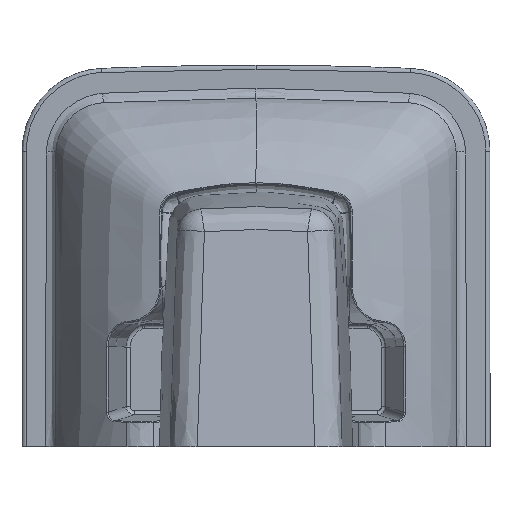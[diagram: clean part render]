
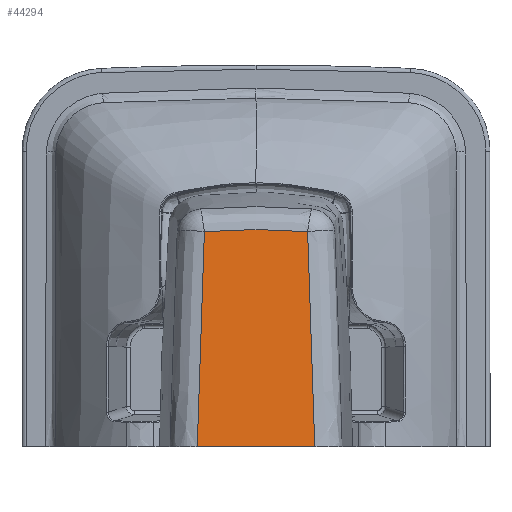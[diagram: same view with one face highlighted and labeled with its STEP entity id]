
A CAD part, front view. The second image highlights one B-rep face of the part: STEP entity #44294.
In plain terms, the highlighted planar face has unit normal (0, -0.995, 0.097).
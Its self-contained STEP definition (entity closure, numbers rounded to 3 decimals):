
#924 = VERTEX_POINT ( 'NONE', #63787 ) ;
#4585 = CARTESIAN_POINT ( 'NONE',  ( 56.202, -386.825, -145.496 ) ) ;
#4694 = ORIENTED_EDGE ( 'NONE', *, *, #5722, .F. ) ;
#5722 = EDGE_CURVE ( 'NONE', #924, #39072, #43797, .T. ) ;
#6096 = CARTESIAN_POINT ( 'NONE',  ( -49.626, -370.017, 26.912 ) ) ;
#6955 = CARTESIAN_POINT ( 'NONE',  ( -56.494, -390.189, -180. ) ) ;
#8443 = CARTESIAN_POINT ( 'NONE',  ( 40.726, -369.95, 27.59 ) ) ;
#9157 = CARTESIAN_POINT ( 'NONE',  ( 49.626, -370.017, 26.912 ) ) ;
#9178 = CARTESIAN_POINT ( 'NONE',  ( -49.626, -370.017, 26.912 ) ) ;
#9524 = CARTESIAN_POINT ( 'NONE',  ( 49.626, -370.017, 26.912 ) ) ;
#9868 = CARTESIAN_POINT ( 'NONE',  ( 51.913, -374.217, -16.167 ) ) ;
#11733 = CARTESIAN_POINT ( 'NONE',  ( 30.023, -369.888, 28.234 ) ) ;
#12697 = EDGE_LOOP ( 'NONE', ( #4694, #37767, #22984, #68208 ) ) ;
#12943 = CARTESIAN_POINT ( 'NONE',  ( 56.493, -390.189, -180. ) ) ;
#13375 = CARTESIAN_POINT ( 'NONE',  ( 42.866, -369.965, 27.44 ) ) ;
#13954 = LINE ( 'NONE', #23806, #15618 ) ;
#15330 = B_SPLINE_CURVE_WITH_KNOTS ( 'NONE', 3,
 ( #9524, #42530, #30956, #52388, #9868, #53754, #52729, #57652, #4585, #26043 ),
 .UNSPECIFIED., .F., .F.,
 ( 4, 2, 2, 2, 4 ),
 ( 0., 0.125, 0.25, 0.5, 1. ),
 .UNSPECIFIED. ) ;
#15582 = EDGE_CURVE ( 'NONE', #39072, #68654, #15330, .T. ) ;
#15618 = VECTOR ( 'NONE', #19588, 1000. ) ;
#17019 = CARTESIAN_POINT ( 'NONE',  ( -30.023, -369.888, 28.234 ) ) ;
#18312 = CARTESIAN_POINT ( 'NONE',  ( 8.581, -369.816, 28.97 ) ) ;
#18656 = CARTESIAN_POINT ( 'NONE',  ( -48.683, -370.009, 26.99 ) ) ;
#19009 = CARTESIAN_POINT ( 'NONE',  ( -8.58, -369.816, 28.97 ) ) ;
#19588 = DIRECTION ( 'NONE',  ( -1., 0., 0. ) ) ;
#19767 = B_SPLINE_CURVE_WITH_KNOTS ( 'NONE', 3,
 ( #9178, #25702, #26048, #52733 ),
 .UNSPECIFIED., .F., .F.,
 ( 4, 4 ),
 ( 0., 1. ),
 .UNSPECIFIED. ) ;
#22984 = ORIENTED_EDGE ( 'NONE', *, *, #35158, .F. ) ;
#23806 = CARTESIAN_POINT ( 'NONE',  ( -4883.174, -390.189, -180. ) ) ;
#25135 = DIRECTION ( 'NONE',  ( 0., 0.097, 0.995 ) ) ;
#25702 = CARTESIAN_POINT ( 'NONE',  ( -53.62, -376.719, -41.833 ) ) ;
#26043 = CARTESIAN_POINT ( 'NONE',  ( 56.493, -390.189, -180. ) ) ;
#26048 = CARTESIAN_POINT ( 'NONE',  ( -55.909, -383.443, -110.803 ) ) ;
#27559 = CARTESIAN_POINT ( 'NONE',  ( 17.165, -369.834, 28.786 ) ) ;
#28819 = VERTEX_POINT ( 'NONE', #6955 ) ;
#30956 = CARTESIAN_POINT ( 'NONE',  ( 50.6, -371.696, 9.683 ) ) ;
#35158 = EDGE_CURVE ( 'NONE', #68654, #28819, #13954, .T. ) ;
#35710 = AXIS2_PLACEMENT_3D ( 'NONE', #42918, #51827, #25135 ) ;
#37767 = ORIENTED_EDGE ( 'NONE', *, *, #66326, .T. ) ;
#39072 = VERTEX_POINT ( 'NONE', #9157 ) ;
#39742 = CARTESIAN_POINT ( 'NONE',  ( -47.143, -369.997, 27.115 ) ) ;
#40081 = CARTESIAN_POINT ( 'NONE',  ( -17.165, -369.834, 28.786 ) ) ;
#40785 = CARTESIAN_POINT ( 'NONE',  ( -34.306, -369.91, 28.005 ) ) ;
#42530 = CARTESIAN_POINT ( 'NONE',  ( 50.124, -370.856, 18.298 ) ) ;
#42918 = CARTESIAN_POINT ( 'NONE',  ( -4883.174, -393.503, -213.992 ) ) ;
#43797 =( BOUNDED_CURVE ( )  B_SPLINE_CURVE ( 3, ( #6096, #54243, #18656, #39742, #51312, #50967, #49339, #40785, #17019, #40081, #19009, #18312, #27559, #11733, #61143, #8443, #13375, #45354, #54593, #65122, #56222, #66761 ),
 .UNSPECIFIED., .F., .T. ) 
 B_SPLINE_CURVE_WITH_KNOTS ( ( 4, 2, 2, 2, 2, 2, 2, 2, 2, 2, 4 ),
 ( 0., 0.014, 0.047, 0.111, 0.241, 0.5, 0.759, 0.889, 0.953, 0.986, 1. ),
 .UNSPECIFIED. ) 
 CURVE ( )  GEOMETRIC_REPRESENTATION_ITEM ( )  RATIONAL_B_SPLINE_CURVE ( ( 1., 1., 1., 1., 1., 1., 1., 1., 1., 1., 1., 1., 1., 1., 1., 1., 1., 1., 1., 1., 1., 1. ) ) 
 REPRESENTATION_ITEM ( '' )  );
#44294 = ADVANCED_FACE ( 'NONE', ( #58718 ), #67975, .F. ) ;
#45354 = CARTESIAN_POINT ( 'NONE',  ( 46.073, -369.989, 27.198 ) ) ;
#49339 = CARTESIAN_POINT ( 'NONE',  ( -40.726, -369.95, 27.59 ) ) ;
#50967 = CARTESIAN_POINT ( 'NONE',  ( -42.866, -369.965, 27.44 ) ) ;
#51312 = CARTESIAN_POINT ( 'NONE',  ( -46.073, -369.989, 27.198 ) ) ;
#51827 = DIRECTION ( 'NONE',  ( 0., 0.995, -0.097 ) ) ;
#52388 = CARTESIAN_POINT ( 'NONE',  ( 51.493, -373.376, -7.55 ) ) ;
#52729 = CARTESIAN_POINT ( 'NONE',  ( 53.77, -378.418, -59.263 ) ) ;
#52733 = CARTESIAN_POINT ( 'NONE',  ( -56.494, -390.189, -180. ) ) ;
#53754 = CARTESIAN_POINT ( 'NONE',  ( 53.091, -376.737, -42.022 ) ) ;
#54243 = CARTESIAN_POINT ( 'NONE',  ( -49.155, -370.013, 26.951 ) ) ;
#54593 = CARTESIAN_POINT ( 'NONE',  ( 47.142, -369.997, 27.115 ) ) ;
#56222 = CARTESIAN_POINT ( 'NONE',  ( 49.154, -370.013, 26.951 ) ) ;
#57652 = CARTESIAN_POINT ( 'NONE',  ( 55.485, -383.462, -110.996 ) ) ;
#58718 = FACE_OUTER_BOUND ( 'NONE', #12697, .T. ) ;
#61143 = CARTESIAN_POINT ( 'NONE',  ( 34.307, -369.91, 28.004 ) ) ;
#63787 = CARTESIAN_POINT ( 'NONE',  ( -49.626, -370.017, 26.912 ) ) ;
#65122 = CARTESIAN_POINT ( 'NONE',  ( 48.683, -370.009, 26.99 ) ) ;
#66326 = EDGE_CURVE ( 'NONE', #924, #28819, #19767, .T. ) ;
#66761 = CARTESIAN_POINT ( 'NONE',  ( 49.626, -370.017, 26.912 ) ) ;
#67975 = PLANE ( 'NONE',  #35710 ) ;
#68208 = ORIENTED_EDGE ( 'NONE', *, *, #15582, .F. ) ;
#68654 = VERTEX_POINT ( 'NONE', #12943 ) ;
